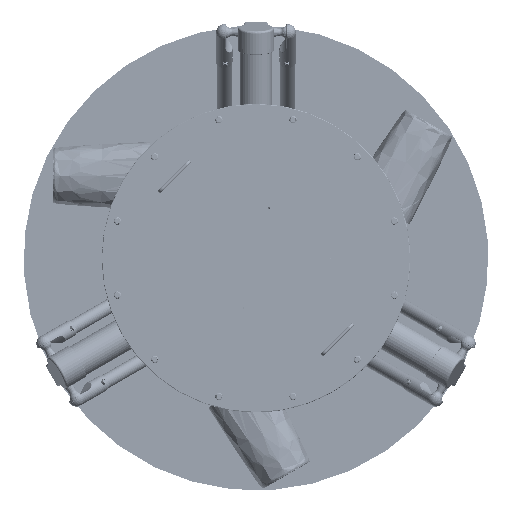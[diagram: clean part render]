
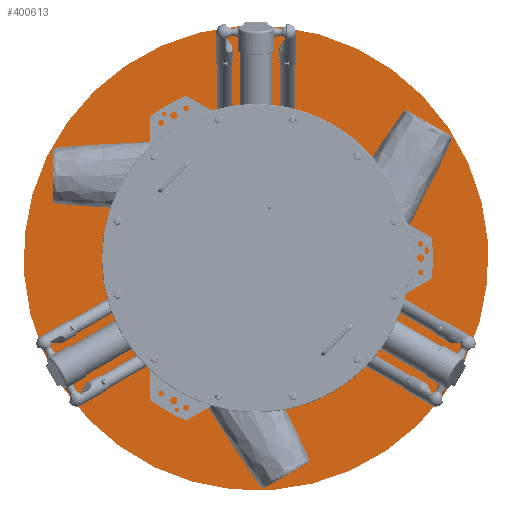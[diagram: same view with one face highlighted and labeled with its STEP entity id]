
A CAD part, front view. The second image highlights one B-rep face of the part: STEP entity #400613.
In plain terms, the highlighted planar face has unit normal (0, -1, 0) as drawn and (0, 1, 0) by its records, which use the part's own axes.
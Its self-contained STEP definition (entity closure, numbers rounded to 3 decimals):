
#29943 = DIRECTION ( 'NONE',  ( 0., -1., 0. ) ) ;
#38981 = CIRCLE ( 'NONE', #141397, 565. ) ;
#90538 = CARTESIAN_POINT ( 'NONE',  ( 0., 410., 0. ) ) ;
#98834 = AXIS2_PLACEMENT_3D ( 'NONE', #183031, #185823, #154891 ) ;
#141397 = AXIS2_PLACEMENT_3D ( 'NONE', #90538, #29943, #252510 ) ;
#154891 = DIRECTION ( 'NONE',  ( 0., 0., -1. ) ) ;
#171465 = FACE_OUTER_BOUND ( 'NONE', #245410, .T. ) ;
#183031 = CARTESIAN_POINT ( 'NONE',  ( 0., 410., 0. ) ) ;
#185823 = DIRECTION ( 'NONE',  ( 0., -1., 0. ) ) ;
#227630 = VERTEX_POINT ( 'NONE', #245380 ) ;
#245380 = CARTESIAN_POINT ( 'NONE',  ( 0., 410., -565. ) ) ;
#245410 = EDGE_LOOP ( 'NONE', ( #394732 ) ) ;
#252510 = DIRECTION ( 'NONE',  ( 0., 0., -1. ) ) ;
#277902 = EDGE_CURVE ( 'NONE', #227630, #227630, #38981, .T. ) ;
#346441 = PLANE ( 'NONE',  #98834 ) ;
#394732 = ORIENTED_EDGE ( 'NONE', *, *, #277902, .F. ) ;
#400613 = ADVANCED_FACE ( 'NONE', ( #171465 ), #346441, .F. ) ;
